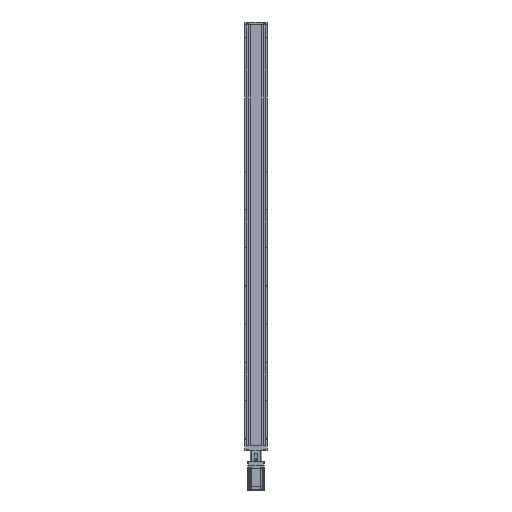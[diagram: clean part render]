
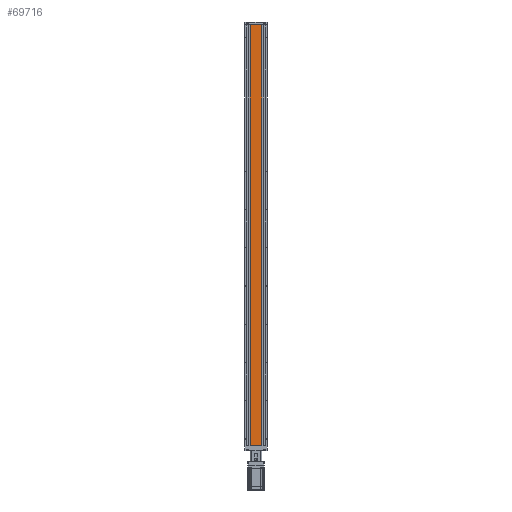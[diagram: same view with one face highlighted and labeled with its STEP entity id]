
A CAD part, front view. The second image highlights one B-rep face of the part: STEP entity #69716.
In plain terms, the highlighted planar face has unit normal (0, -1, 0).
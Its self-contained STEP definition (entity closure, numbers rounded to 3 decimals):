
#1508 = PLANE ( 'NONE',  #37889 ) ;
#1708 = VECTOR ( 'NONE', #28119, 1000. ) ;
#5259 = CARTESIAN_POINT ( 'NONE',  ( -30., -29.2, 1100. ) ) ;
#6727 = FACE_OUTER_BOUND ( 'NONE', #41290, .T. ) ;
#9668 = CARTESIAN_POINT ( 'NONE',  ( -30., -29.2, -1100. ) ) ;
#12942 = LINE ( 'NONE', #43977, #57476 ) ;
#14715 = VERTEX_POINT ( 'NONE', #70773 ) ;
#17048 = VECTOR ( 'NONE', #19559, 1000. ) ;
#19559 = DIRECTION ( 'NONE',  ( 0., 0., 1. ) ) ;
#20701 = LINE ( 'NONE', #54326, #17048 ) ;
#22951 = EDGE_CURVE ( 'NONE', #14715, #46271, #12942, .T. ) ;
#25106 = EDGE_CURVE ( 'NONE', #46271, #59378, #50725, .T. ) ;
#28119 = DIRECTION ( 'NONE',  ( -1., 0., 0. ) ) ;
#28643 = ORIENTED_EDGE ( 'NONE', *, *, #22951, .T. ) ;
#31247 = CARTESIAN_POINT ( 'NONE',  ( -30., -29.2, -1100. ) ) ;
#31529 = ORIENTED_EDGE ( 'NONE', *, *, #45586, .F. ) ;
#33441 = VECTOR ( 'NONE', #37822, 1000. ) ;
#37040 = CARTESIAN_POINT ( 'NONE',  ( 30., -29.2, 1100. ) ) ;
#37822 = DIRECTION ( 'NONE',  ( -1., 0., 0. ) ) ;
#37889 = AXIS2_PLACEMENT_3D ( 'NONE', #66270, #48973, #67009 ) ;
#41290 = EDGE_LOOP ( 'NONE', ( #43285, #31529, #28643, #73284 ) ) ;
#43285 = ORIENTED_EDGE ( 'NONE', *, *, #45623, .F. ) ;
#43977 = CARTESIAN_POINT ( 'NONE',  ( 30., -29.2, -1100. ) ) ;
#45586 = EDGE_CURVE ( 'NONE', #14715, #65190, #73487, .T. ) ;
#45623 = EDGE_CURVE ( 'NONE', #65190, #59378, #20701, .T. ) ;
#46271 = VERTEX_POINT ( 'NONE', #37040 ) ;
#48973 = DIRECTION ( 'NONE',  ( 0., 1., 0. ) ) ;
#50725 = LINE ( 'NONE', #62901, #1708 ) ;
#54326 = CARTESIAN_POINT ( 'NONE',  ( -30., -29.2, -1100. ) ) ;
#54881 = DIRECTION ( 'NONE',  ( 0., 0., 1. ) ) ;
#57476 = VECTOR ( 'NONE', #54881, 1000. ) ;
#59378 = VERTEX_POINT ( 'NONE', #5259 ) ;
#62901 = CARTESIAN_POINT ( 'NONE',  ( -30., -29.2, 1100. ) ) ;
#65190 = VERTEX_POINT ( 'NONE', #9668 ) ;
#66270 = CARTESIAN_POINT ( 'NONE',  ( -30., -29.2, -1100. ) ) ;
#67009 = DIRECTION ( 'NONE',  ( 0., 0., 1. ) ) ;
#69716 = ADVANCED_FACE ( 'NONE', ( #6727 ), #1508, .F. ) ;
#70773 = CARTESIAN_POINT ( 'NONE',  ( 30., -29.2, -1100. ) ) ;
#73284 = ORIENTED_EDGE ( 'NONE', *, *, #25106, .T. ) ;
#73487 = LINE ( 'NONE', #31247, #33441 ) ;
